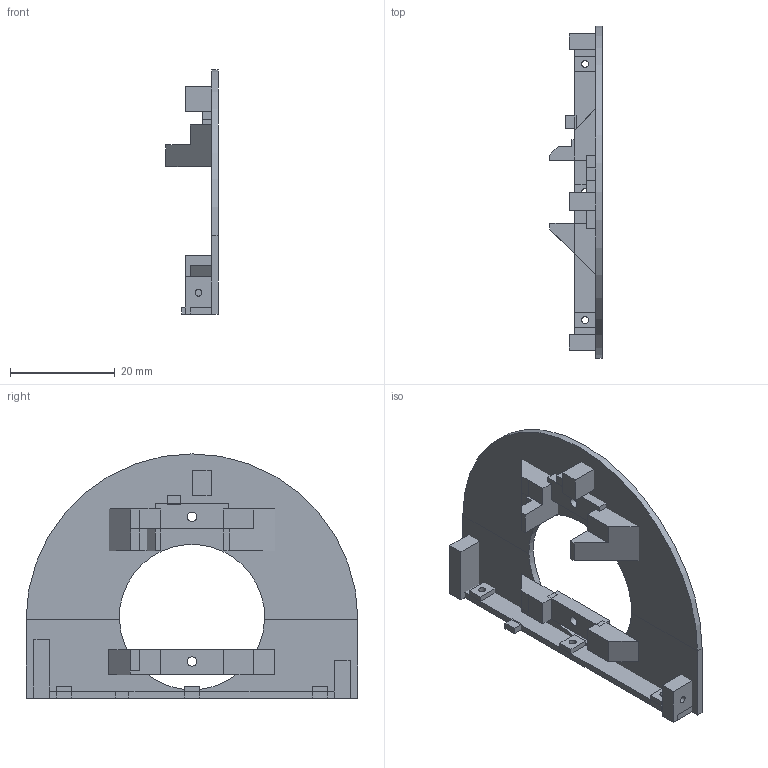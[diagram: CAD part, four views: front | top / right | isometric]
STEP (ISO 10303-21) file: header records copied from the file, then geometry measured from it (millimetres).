
FILE_DESCRIPTION(('FreeCAD Model'),'2;1');
FILE_NAME('/Users/alberto/Desktop/Dtto v2.0.1 STEP/004-1.step', '2017-05-29T11:41:16',('Author'),(''), 'Open CASCADE STEP processor 6.8','FreeCAD','Unknown');
FILE_SCHEMA(('AUTOMOTIVE_DESIGN_CC2 { 1 2 10303 214 -1 1 5 4 }'));
Length unit declared in the file: millimetre
Products named in the file (9): ASSEMBLY; Cut163; Cut197; Cut198; Cut191; Cut223; Cut230; Cubo502; Cubo504
Assembly tree (8 placements, depth 2):
  ASSEMBLY
    Cut163
    Cut197
    Cut198
    Cut191
    Cut223
    Cut230
    Cubo502
    Cubo504
Bounding box: 10 x 63.5 x 46.75 mm (x, y, z)
Volume: 4421.7 mm3; surface area: 6947.4 mm2
Topology: 9 solids, 9 shells, 145 faces, 333 edges, 207 vertices
Faces by surface type: plane 133, cylinder 12
Full cylindrical faces by diameter (mm): 1.3 x6, 1.8 x3, 27.8 x1
Entity records: 8474 total; most frequent: CARTESIAN_POINT 1538, DIRECTION 1209, LINE 821, VECTOR 821, ORIENTED_EDGE 666, PCURVE 666, DEFINITIONAL_REPRESENTATION 666, EDGE_CURVE 333
